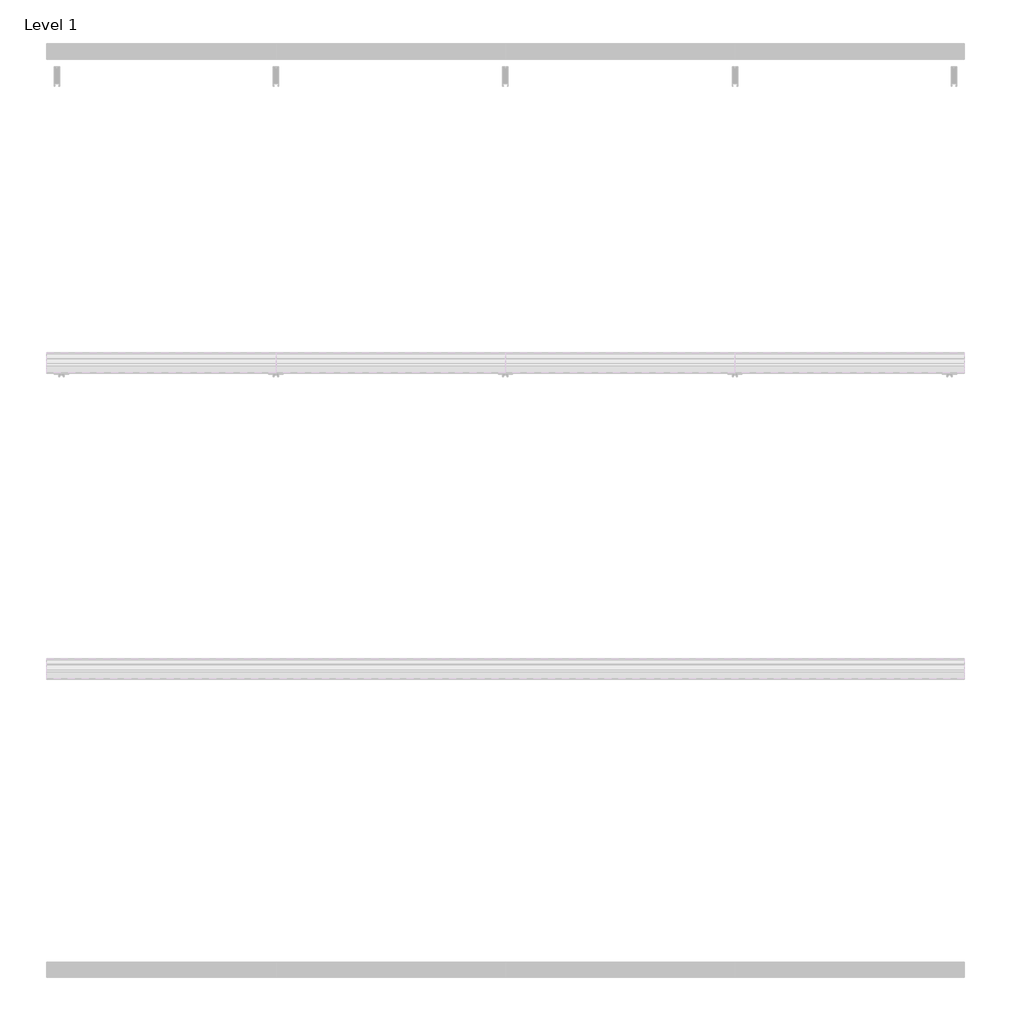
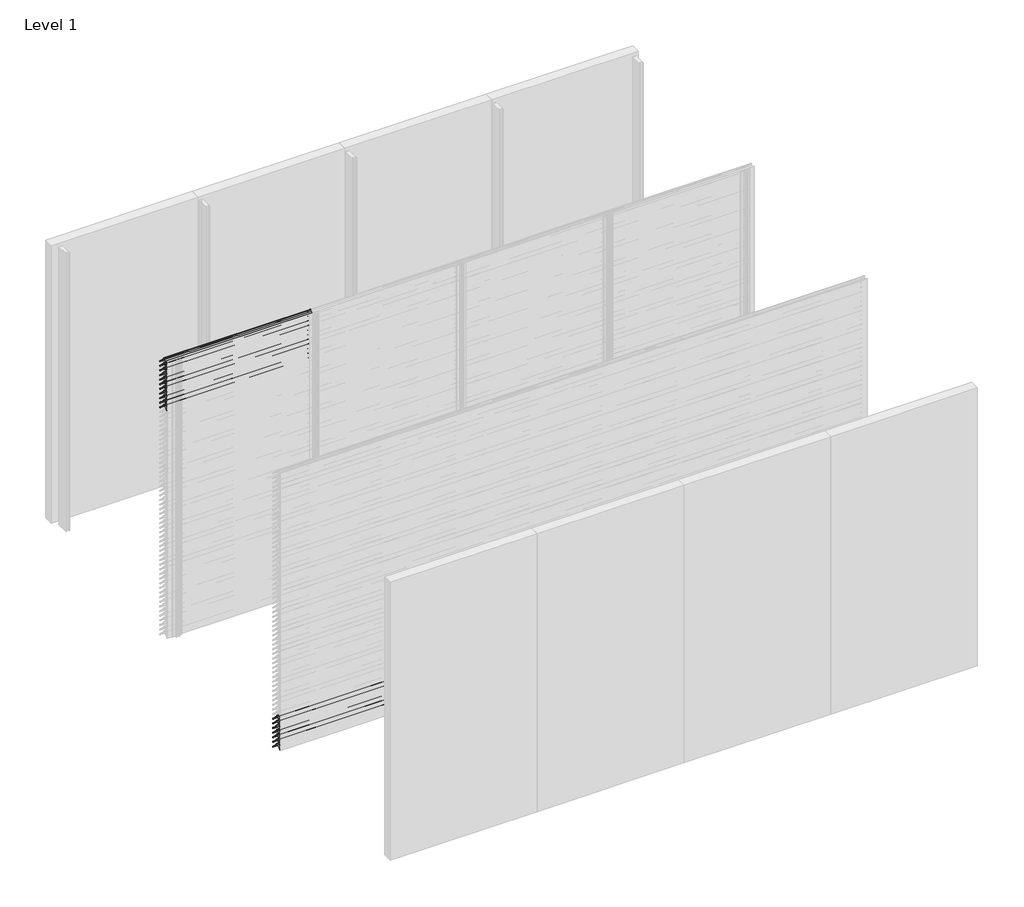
# One storey, part 6 of 173: 18 proxies.
"""IFC4 building model written with IfcOpenShell, lengths in millimetres."""

from ifc_helpers import new_model, si_unit, point, frame, frame_2d, origin, place, context, project, spatial, polyline, circle_curve, trimmed, segment, composite_curve, outline, extrude, element, save

model = new_model("IFC4")

# Units and contexts
model_context = context("Model", 3, world=origin())
ifc_project = project(units=[si_unit("LENGTHUNIT", "METRE", prefix="MILLI")], contexts=[model_context])

# Site, building, storey
site = spatial("IfcSite", under=ifc_project)
building = spatial("IfcBuilding", under=site)
storey = spatial("IfcBuildingStorey", under=building, Name="Level 1", Elevation=0.0)

# Proxies
placement = place(None, origin())
element("IfcBuildingElementProxy", 1, Name="Wall Sweeps", at=placement, inside=storey, context=model_context, shape_type="SweptSolid", body=[
    extrude(outline(composite_curve([segment(polyline([(-53998.0, 2959.1474905), (-53998.0, 2961.6227417)]), True, "CONTINUOUS"), segment(trimmed(circle_curve(frame_2d((-53951.2682172, 2916.2200208)), 65.1557103), [point((-53998.0, 2961.6227417))], [point((-53954.4014323, 2981.3003524))], False, "CARTESIAN"), True, "CONTINUOUS"), segment(polyline([(-53954.4014323, 2981.3003524), (-53934.8315836, 2981.3003524)]), True, "CONTINUOUS"), segment(trimmed(circle_curve(frame_2d((-53732.7329489, 3128.5533172)), 250.0545817), [point((-53934.8315836, 2981.3003524))], [point((-53941.4452143, 2990.8344583))], False, "CARTESIAN"), True, "CONTINUOUS"), segment(trimmed(circle_curve(frame_2d((-53953.2981792, 2985.1737835)), 13.1352966), [point((-53941.4452143, 2990.8344583))], [point((-53953.8171475, 2998.298824))], True, "CARTESIAN"), True, "CONTINUOUS"), segment(polyline([(-53953.8171475, 2998.298824), (-53953.8171475, 3000.0)]), True, "CONTINUOUS"), segment(trimmed(circle_curve(frame_2d((-53953.2981792, 2985.1737835)), 14.8352966), [point((-53953.8171475, 3000.0))], [point((-53939.9637661, 2991.6760487))], False, "CARTESIAN"), True, "CONTINUOUS"), segment(trimmed(circle_curve(frame_2d((-53732.7329489, 3128.5533172)), 248.3545817), [point((-53939.9637661, 2991.6760487))], [point((-53873.8787895, 2924.2059416))], True, "CARTESIAN"), True, "CONTINUOUS"), segment(trimmed(circle_curve(frame_2d((-53883.8147537, 2911.6649442)), 16.0), [point((-53873.8787895, 2924.2059416))], [point((-53867.8648347, 2910.4))], False, "CARTESIAN"), True, "CONTINUOUS"), segment(polyline([(-53867.8648347, 2910.4), (-53869.6712069, 2910.4)]), True, "CONTINUOUS"), segment(trimmed(circle_curve(frame_2d((-53883.8147537, 2911.6649442)), 14.2), [point((-53869.6712069, 2910.4))], [point((-53874.9518628, 2922.7594998))], True, "CARTESIAN"), True, "CONTINUOUS"), segment(trimmed(circle_curve(frame_2d((-53732.7329489, 3128.5533172)), 250.1545817), [point((-53874.9518628, 2922.7594998))], [point((-53933.7064024, 2979.6003524))], False, "CARTESIAN"), True, "CONTINUOUS"), segment(polyline([(-53933.7064024, 2979.6003524), (-53954.3602632, 2979.6003524)]), True, "CONTINUOUS"), segment(trimmed(circle_curve(frame_2d((-53951.2682172, 2916.2200208)), 63.4557103), [point((-53954.3602632, 2979.6003524))], [point((-53998.0, 2959.1474905))], True, "CARTESIAN"), True, "CONTINUOUS")], self_intersect=False)), frame((0.0, 0.0, 0.0), z_axis=(1.0, 0.0, 0.0), x_axis=(0.0, 1.0, 0.0)), (0.0, 0.0, 1.0), 1500.0),
])
element("IfcBuildingElementProxy", 2, Name="Wall Sweeps", at=placement, inside=storey, context=model_context, shape_type="SweptSolid", body=[
    extrude(outline(composite_curve([segment(polyline([(-53998.0, 2909.1474905), (-53998.0, 2911.6227417)]), True, "CONTINUOUS"), segment(trimmed(circle_curve(frame_2d((-53951.2682172, 2866.2200208)), 65.1557103), [point((-53998.0, 2911.6227417))], [point((-53954.4014323, 2931.3003524))], False, "CARTESIAN"), True, "CONTINUOUS"), segment(polyline([(-53954.4014323, 2931.3003524), (-53934.8315836, 2931.3003524)]), True, "CONTINUOUS"), segment(trimmed(circle_curve(frame_2d((-53732.7329489, 3078.5533172)), 250.0545817), [point((-53934.8315836, 2931.3003524))], [point((-53941.4452143, 2940.8344583))], False, "CARTESIAN"), True, "CONTINUOUS"), segment(trimmed(circle_curve(frame_2d((-53953.2981792, 2935.1737835)), 13.1352966), [point((-53941.4452143, 2940.8344583))], [point((-53953.8171475, 2948.298824))], True, "CARTESIAN"), True, "CONTINUOUS"), segment(polyline([(-53953.8171475, 2948.298824), (-53953.8171475, 2950.0)]), True, "CONTINUOUS"), segment(trimmed(circle_curve(frame_2d((-53953.2981792, 2935.1737835)), 14.8352966), [point((-53953.8171475, 2950.0))], [point((-53939.9637661, 2941.6760487))], False, "CARTESIAN"), True, "CONTINUOUS"), segment(trimmed(circle_curve(frame_2d((-53732.7329489, 3078.5533172)), 248.3545817), [point((-53939.9637661, 2941.6760487))], [point((-53873.8787895, 2874.2059416))], True, "CARTESIAN"), True, "CONTINUOUS"), segment(trimmed(circle_curve(frame_2d((-53883.8147537, 2861.6649442)), 16.0), [point((-53873.8787895, 2874.2059416))], [point((-53867.8648347, 2860.4))], False, "CARTESIAN"), True, "CONTINUOUS"), segment(polyline([(-53867.8648347, 2860.4), (-53869.6712069, 2860.4)]), True, "CONTINUOUS"), segment(trimmed(circle_curve(frame_2d((-53883.8147537, 2861.6649442)), 14.2), [point((-53869.6712069, 2860.4))], [point((-53874.9518628, 2872.7594998))], True, "CARTESIAN"), True, "CONTINUOUS"), segment(trimmed(circle_curve(frame_2d((-53732.7329489, 3078.5533172)), 250.1545817), [point((-53874.9518628, 2872.7594998))], [point((-53933.7064024, 2929.6003524))], False, "CARTESIAN"), True, "CONTINUOUS"), segment(polyline([(-53933.7064024, 2929.6003524), (-53954.3602632, 2929.6003524)]), True, "CONTINUOUS"), segment(trimmed(circle_curve(frame_2d((-53951.2682172, 2866.2200208)), 63.4557103), [point((-53954.3602632, 2929.6003524))], [point((-53998.0, 2909.1474905))], True, "CARTESIAN"), True, "CONTINUOUS")], self_intersect=False)), frame((0.0, 0.0, 0.0), z_axis=(1.0, 0.0, 0.0), x_axis=(0.0, 1.0, 0.0)), (0.0, 0.0, 1.0), 1500.0),
])
element("IfcBuildingElementProxy", 3, Name="Wall Sweeps", at=placement, inside=storey, context=model_context, shape_type="SweptSolid", body=[
    extrude(outline(composite_curve([segment(polyline([(-53998.0, 2859.1474905), (-53998.0, 2861.6227417)]), True, "CONTINUOUS"), segment(trimmed(circle_curve(frame_2d((-53951.2682172, 2816.2200208)), 65.1557103), [point((-53998.0, 2861.6227417))], [point((-53954.4014323, 2881.3003524))], False, "CARTESIAN"), True, "CONTINUOUS"), segment(polyline([(-53954.4014323, 2881.3003524), (-53934.8315836, 2881.3003524)]), True, "CONTINUOUS"), segment(trimmed(circle_curve(frame_2d((-53732.7329489, 3028.5533172)), 250.0545817), [point((-53934.8315836, 2881.3003524))], [point((-53941.4452143, 2890.8344583))], False, "CARTESIAN"), True, "CONTINUOUS"), segment(trimmed(circle_curve(frame_2d((-53953.2981792, 2885.1737835)), 13.1352966), [point((-53941.4452143, 2890.8344583))], [point((-53953.8171475, 2898.298824))], True, "CARTESIAN"), True, "CONTINUOUS"), segment(polyline([(-53953.8171475, 2898.298824), (-53953.8171475, 2900.0)]), True, "CONTINUOUS"), segment(trimmed(circle_curve(frame_2d((-53953.2981792, 2885.1737835)), 14.8352966), [point((-53953.8171475, 2900.0))], [point((-53939.9637661, 2891.6760487))], False, "CARTESIAN"), True, "CONTINUOUS"), segment(trimmed(circle_curve(frame_2d((-53732.7329489, 3028.5533172)), 248.3545817), [point((-53939.9637661, 2891.6760487))], [point((-53873.8787895, 2824.2059416))], True, "CARTESIAN"), True, "CONTINUOUS"), segment(trimmed(circle_curve(frame_2d((-53883.8147537, 2811.6649442)), 16.0), [point((-53873.8787895, 2824.2059416))], [point((-53867.8648347, 2810.4))], False, "CARTESIAN"), True, "CONTINUOUS"), segment(polyline([(-53867.8648347, 2810.4), (-53869.6712069, 2810.4)]), True, "CONTINUOUS"), segment(trimmed(circle_curve(frame_2d((-53883.8147537, 2811.6649442)), 14.2), [point((-53869.6712069, 2810.4))], [point((-53874.9518628, 2822.7594998))], True, "CARTESIAN"), True, "CONTINUOUS"), segment(trimmed(circle_curve(frame_2d((-53732.7329489, 3028.5533172)), 250.1545817), [point((-53874.9518628, 2822.7594998))], [point((-53933.7064024, 2879.6003524))], False, "CARTESIAN"), True, "CONTINUOUS"), segment(polyline([(-53933.7064024, 2879.6003524), (-53954.3602632, 2879.6003524)]), True, "CONTINUOUS"), segment(trimmed(circle_curve(frame_2d((-53951.2682172, 2816.2200208)), 63.4557103), [point((-53954.3602632, 2879.6003524))], [point((-53998.0, 2859.1474905))], True, "CARTESIAN"), True, "CONTINUOUS")], self_intersect=False)), frame((0.0, 0.0, 0.0), z_axis=(1.0, 0.0, 0.0), x_axis=(0.0, 1.0, 0.0)), (0.0, 0.0, 1.0), 1500.0),
])
element("IfcBuildingElementProxy", 4, Name="Wall Sweeps", at=placement, inside=storey, context=model_context, shape_type="SweptSolid", body=[
    extrude(outline(composite_curve([segment(polyline([(-53998.0, 2809.1474905), (-53998.0, 2811.6227417)]), True, "CONTINUOUS"), segment(trimmed(circle_curve(frame_2d((-53951.2682172, 2766.2200208)), 65.1557103), [point((-53998.0, 2811.6227417))], [point((-53954.4014323, 2831.3003524))], False, "CARTESIAN"), True, "CONTINUOUS"), segment(polyline([(-53954.4014323, 2831.3003524), (-53934.8315836, 2831.3003524)]), True, "CONTINUOUS"), segment(trimmed(circle_curve(frame_2d((-53732.7329489, 2978.5533172)), 250.0545817), [point((-53934.8315836, 2831.3003524))], [point((-53941.4452143, 2840.8344583))], False, "CARTESIAN"), True, "CONTINUOUS"), segment(trimmed(circle_curve(frame_2d((-53953.2981792, 2835.1737835)), 13.1352966), [point((-53941.4452143, 2840.8344583))], [point((-53953.8171475, 2848.298824))], True, "CARTESIAN"), True, "CONTINUOUS"), segment(polyline([(-53953.8171475, 2848.298824), (-53953.8171475, 2850.0)]), True, "CONTINUOUS"), segment(trimmed(circle_curve(frame_2d((-53953.2981792, 2835.1737835)), 14.8352966), [point((-53953.8171475, 2850.0))], [point((-53939.9637661, 2841.6760487))], False, "CARTESIAN"), True, "CONTINUOUS"), segment(trimmed(circle_curve(frame_2d((-53732.7329489, 2978.5533172)), 248.3545817), [point((-53939.9637661, 2841.6760487))], [point((-53873.8787895, 2774.2059416))], True, "CARTESIAN"), True, "CONTINUOUS"), segment(trimmed(circle_curve(frame_2d((-53883.8147537, 2761.6649442)), 16.0), [point((-53873.8787895, 2774.2059416))], [point((-53867.8648347, 2760.4))], False, "CARTESIAN"), True, "CONTINUOUS"), segment(polyline([(-53867.8648347, 2760.4), (-53869.6712069, 2760.4)]), True, "CONTINUOUS"), segment(trimmed(circle_curve(frame_2d((-53883.8147537, 2761.6649442)), 14.2), [point((-53869.6712069, 2760.4))], [point((-53874.9518628, 2772.7594998))], True, "CARTESIAN"), True, "CONTINUOUS"), segment(trimmed(circle_curve(frame_2d((-53732.7329489, 2978.5533172)), 250.1545817), [point((-53874.9518628, 2772.7594998))], [point((-53933.7064024, 2829.6003524))], False, "CARTESIAN"), True, "CONTINUOUS"), segment(polyline([(-53933.7064024, 2829.6003524), (-53954.3602632, 2829.6003524)]), True, "CONTINUOUS"), segment(trimmed(circle_curve(frame_2d((-53951.2682172, 2766.2200208)), 63.4557103), [point((-53954.3602632, 2829.6003524))], [point((-53998.0, 2809.1474905))], True, "CARTESIAN"), True, "CONTINUOUS")], self_intersect=False)), frame((0.0, 0.0, 0.0), z_axis=(1.0, 0.0, 0.0), x_axis=(0.0, 1.0, 0.0)), (0.0, 0.0, 1.0), 1500.0),
])
element("IfcBuildingElementProxy", 5, Name="Wall Sweeps", at=placement, inside=storey, context=model_context, shape_type="SweptSolid", body=[
    extrude(outline(composite_curve([segment(polyline([(-53998.0, 2759.1474905), (-53998.0, 2761.6227417)]), True, "CONTINUOUS"), segment(trimmed(circle_curve(frame_2d((-53951.2682172, 2716.2200208)), 65.1557103), [point((-53998.0, 2761.6227417))], [point((-53954.4014323, 2781.3003524))], False, "CARTESIAN"), True, "CONTINUOUS"), segment(polyline([(-53954.4014323, 2781.3003524), (-53934.8315836, 2781.3003524)]), True, "CONTINUOUS"), segment(trimmed(circle_curve(frame_2d((-53732.7329489, 2928.5533172)), 250.0545817), [point((-53934.8315836, 2781.3003524))], [point((-53941.4452143, 2790.8344583))], False, "CARTESIAN"), True, "CONTINUOUS"), segment(trimmed(circle_curve(frame_2d((-53953.2981792, 2785.1737835)), 13.1352966), [point((-53941.4452143, 2790.8344583))], [point((-53953.8171475, 2798.298824))], True, "CARTESIAN"), True, "CONTINUOUS"), segment(polyline([(-53953.8171475, 2798.298824), (-53953.8171475, 2800.0)]), True, "CONTINUOUS"), segment(trimmed(circle_curve(frame_2d((-53953.2981792, 2785.1737835)), 14.8352966), [point((-53953.8171475, 2800.0))], [point((-53939.9637661, 2791.6760487))], False, "CARTESIAN"), True, "CONTINUOUS"), segment(trimmed(circle_curve(frame_2d((-53732.7329489, 2928.5533172)), 248.3545817), [point((-53939.9637661, 2791.6760487))], [point((-53873.8787895, 2724.2059416))], True, "CARTESIAN"), True, "CONTINUOUS"), segment(trimmed(circle_curve(frame_2d((-53883.8147537, 2711.6649442)), 16.0), [point((-53873.8787895, 2724.2059416))], [point((-53867.8648347, 2710.4))], False, "CARTESIAN"), True, "CONTINUOUS"), segment(polyline([(-53867.8648347, 2710.4), (-53869.6712069, 2710.4)]), True, "CONTINUOUS"), segment(trimmed(circle_curve(frame_2d((-53883.8147537, 2711.6649442)), 14.2), [point((-53869.6712069, 2710.4))], [point((-53874.9518628, 2722.7594998))], True, "CARTESIAN"), True, "CONTINUOUS"), segment(trimmed(circle_curve(frame_2d((-53732.7329489, 2928.5533172)), 250.1545817), [point((-53874.9518628, 2722.7594998))], [point((-53933.7064024, 2779.6003524))], False, "CARTESIAN"), True, "CONTINUOUS"), segment(polyline([(-53933.7064024, 2779.6003524), (-53954.3602632, 2779.6003524)]), True, "CONTINUOUS"), segment(trimmed(circle_curve(frame_2d((-53951.2682172, 2716.2200208)), 63.4557103), [point((-53954.3602632, 2779.6003524))], [point((-53998.0, 2759.1474905))], True, "CARTESIAN"), True, "CONTINUOUS")], self_intersect=False)), frame((0.0, 0.0, 0.0), z_axis=(1.0, 0.0, 0.0), x_axis=(0.0, 1.0, 0.0)), (0.0, 0.0, 1.0), 1500.0),
])
element("IfcBuildingElementProxy", 6, Name="Wall Sweeps", at=placement, inside=storey, context=model_context, shape_type="SweptSolid", body=[
    extrude(outline(composite_curve([segment(polyline([(-53998.0, 2709.1474905), (-53998.0, 2711.6227417)]), True, "CONTINUOUS"), segment(trimmed(circle_curve(frame_2d((-53951.2682172, 2666.2200208)), 65.1557103), [point((-53998.0, 2711.6227417))], [point((-53954.4014323, 2731.3003524))], False, "CARTESIAN"), True, "CONTINUOUS"), segment(polyline([(-53954.4014323, 2731.3003524), (-53934.8315836, 2731.3003524)]), True, "CONTINUOUS"), segment(trimmed(circle_curve(frame_2d((-53732.7329489, 2878.5533172)), 250.0545817), [point((-53934.8315836, 2731.3003524))], [point((-53941.4452143, 2740.8344583))], False, "CARTESIAN"), True, "CONTINUOUS"), segment(trimmed(circle_curve(frame_2d((-53953.2981792, 2735.1737835)), 13.1352966), [point((-53941.4452143, 2740.8344583))], [point((-53953.8171475, 2748.298824))], True, "CARTESIAN"), True, "CONTINUOUS"), segment(polyline([(-53953.8171475, 2748.298824), (-53953.8171475, 2750.0)]), True, "CONTINUOUS"), segment(trimmed(circle_curve(frame_2d((-53953.2981792, 2735.1737835)), 14.8352966), [point((-53953.8171475, 2750.0))], [point((-53939.9637661, 2741.6760487))], False, "CARTESIAN"), True, "CONTINUOUS"), segment(trimmed(circle_curve(frame_2d((-53732.7329489, 2878.5533172)), 248.3545817), [point((-53939.9637661, 2741.6760487))], [point((-53873.8787895, 2674.2059416))], True, "CARTESIAN"), True, "CONTINUOUS"), segment(trimmed(circle_curve(frame_2d((-53883.8147537, 2661.6649442)), 16.0), [point((-53873.8787895, 2674.2059416))], [point((-53867.8648347, 2660.4))], False, "CARTESIAN"), True, "CONTINUOUS"), segment(polyline([(-53867.8648347, 2660.4), (-53869.6712069, 2660.4)]), True, "CONTINUOUS"), segment(trimmed(circle_curve(frame_2d((-53883.8147537, 2661.6649442)), 14.2), [point((-53869.6712069, 2660.4))], [point((-53874.9518628, 2672.7594998))], True, "CARTESIAN"), True, "CONTINUOUS"), segment(trimmed(circle_curve(frame_2d((-53732.7329489, 2878.5533172)), 250.1545817), [point((-53874.9518628, 2672.7594998))], [point((-53933.7064024, 2729.6003524))], False, "CARTESIAN"), True, "CONTINUOUS"), segment(polyline([(-53933.7064024, 2729.6003524), (-53954.3602632, 2729.6003524)]), True, "CONTINUOUS"), segment(trimmed(circle_curve(frame_2d((-53951.2682172, 2666.2200208)), 63.4557103), [point((-53954.3602632, 2729.6003524))], [point((-53998.0, 2709.1474905))], True, "CARTESIAN"), True, "CONTINUOUS")], self_intersect=False)), frame((0.0, 0.0, 0.0), z_axis=(1.0, 0.0, 0.0), x_axis=(0.0, 1.0, 0.0)), (0.0, 0.0, 1.0), 1500.0),
])
element("IfcBuildingElementProxy", 7, Name="Wall Sweeps", at=placement, inside=storey, context=model_context, shape_type="SweptSolid", body=[
    extrude(outline(composite_curve([segment(polyline([(-53998.0, 2659.1474905), (-53998.0, 2661.6227417)]), True, "CONTINUOUS"), segment(trimmed(circle_curve(frame_2d((-53951.2682172, 2616.2200208)), 65.1557103), [point((-53998.0, 2661.6227417))], [point((-53954.4014323, 2681.3003524))], False, "CARTESIAN"), True, "CONTINUOUS"), segment(polyline([(-53954.4014323, 2681.3003524), (-53934.8315836, 2681.3003524)]), True, "CONTINUOUS"), segment(trimmed(circle_curve(frame_2d((-53732.7329489, 2828.5533172)), 250.0545817), [point((-53934.8315836, 2681.3003524))], [point((-53941.4452143, 2690.8344583))], False, "CARTESIAN"), True, "CONTINUOUS"), segment(trimmed(circle_curve(frame_2d((-53953.2981792, 2685.1737835)), 13.1352966), [point((-53941.4452143, 2690.8344583))], [point((-53953.8171475, 2698.298824))], True, "CARTESIAN"), True, "CONTINUOUS"), segment(polyline([(-53953.8171475, 2698.298824), (-53953.8171475, 2700.0)]), True, "CONTINUOUS"), segment(trimmed(circle_curve(frame_2d((-53953.2981792, 2685.1737835)), 14.8352966), [point((-53953.8171475, 2700.0))], [point((-53939.9637661, 2691.6760487))], False, "CARTESIAN"), True, "CONTINUOUS"), segment(trimmed(circle_curve(frame_2d((-53732.7329489, 2828.5533172)), 248.3545817), [point((-53939.9637661, 2691.6760487))], [point((-53873.8787895, 2624.2059416))], True, "CARTESIAN"), True, "CONTINUOUS"), segment(trimmed(circle_curve(frame_2d((-53883.8147537, 2611.6649442)), 16.0), [point((-53873.8787895, 2624.2059416))], [point((-53867.8648347, 2610.4))], False, "CARTESIAN"), True, "CONTINUOUS"), segment(polyline([(-53867.8648347, 2610.4), (-53869.6712069, 2610.4)]), True, "CONTINUOUS"), segment(trimmed(circle_curve(frame_2d((-53883.8147537, 2611.6649442)), 14.2), [point((-53869.6712069, 2610.4))], [point((-53874.9518628, 2622.7594998))], True, "CARTESIAN"), True, "CONTINUOUS"), segment(trimmed(circle_curve(frame_2d((-53732.7329489, 2828.5533172)), 250.1545817), [point((-53874.9518628, 2622.7594998))], [point((-53933.7064024, 2679.6003524))], False, "CARTESIAN"), True, "CONTINUOUS"), segment(polyline([(-53933.7064024, 2679.6003524), (-53954.3602632, 2679.6003524)]), True, "CONTINUOUS"), segment(trimmed(circle_curve(frame_2d((-53951.2682172, 2616.2200208)), 63.4557103), [point((-53954.3602632, 2679.6003524))], [point((-53998.0, 2659.1474905))], True, "CARTESIAN"), True, "CONTINUOUS")], self_intersect=False)), frame((0.0, 0.0, 0.0), z_axis=(1.0, 0.0, 0.0), x_axis=(0.0, 1.0, 0.0)), (0.0, 0.0, 1.0), 1500.0),
])
element("IfcBuildingElementProxy", 8, Name="Wall Sweeps", at=placement, inside=storey, context=model_context, shape_type="SweptSolid", body=[
    extrude(outline(composite_curve([segment(polyline([(-53998.0, 2609.1474905), (-53998.0, 2611.6227417)]), True, "CONTINUOUS"), segment(trimmed(circle_curve(frame_2d((-53951.2682172, 2566.2200208)), 65.1557103), [point((-53998.0, 2611.6227417))], [point((-53954.4014323, 2631.3003524))], False, "CARTESIAN"), True, "CONTINUOUS"), segment(polyline([(-53954.4014323, 2631.3003524), (-53934.8315836, 2631.3003524)]), True, "CONTINUOUS"), segment(trimmed(circle_curve(frame_2d((-53732.7329489, 2778.5533172)), 250.0545817), [point((-53934.8315836, 2631.3003524))], [point((-53941.4452143, 2640.8344583))], False, "CARTESIAN"), True, "CONTINUOUS"), segment(trimmed(circle_curve(frame_2d((-53953.2981792, 2635.1737835)), 13.1352966), [point((-53941.4452143, 2640.8344583))], [point((-53953.8171475, 2648.298824))], True, "CARTESIAN"), True, "CONTINUOUS"), segment(polyline([(-53953.8171475, 2648.298824), (-53953.8171475, 2650.0)]), True, "CONTINUOUS"), segment(trimmed(circle_curve(frame_2d((-53953.2981792, 2635.1737835)), 14.8352966), [point((-53953.8171475, 2650.0))], [point((-53939.9637661, 2641.6760487))], False, "CARTESIAN"), True, "CONTINUOUS"), segment(trimmed(circle_curve(frame_2d((-53732.7329489, 2778.5533172)), 248.3545817), [point((-53939.9637661, 2641.6760487))], [point((-53873.8787895, 2574.2059416))], True, "CARTESIAN"), True, "CONTINUOUS"), segment(trimmed(circle_curve(frame_2d((-53883.8147537, 2561.6649442)), 16.0), [point((-53873.8787895, 2574.2059416))], [point((-53867.8648347, 2560.4))], False, "CARTESIAN"), True, "CONTINUOUS"), segment(polyline([(-53867.8648347, 2560.4), (-53869.6712069, 2560.4)]), True, "CONTINUOUS"), segment(trimmed(circle_curve(frame_2d((-53883.8147537, 2561.6649442)), 14.2), [point((-53869.6712069, 2560.4))], [point((-53874.9518628, 2572.7594998))], True, "CARTESIAN"), True, "CONTINUOUS"), segment(trimmed(circle_curve(frame_2d((-53732.7329489, 2778.5533172)), 250.1545817), [point((-53874.9518628, 2572.7594998))], [point((-53933.7064024, 2629.6003524))], False, "CARTESIAN"), True, "CONTINUOUS"), segment(polyline([(-53933.7064024, 2629.6003524), (-53954.3602632, 2629.6003524)]), True, "CONTINUOUS"), segment(trimmed(circle_curve(frame_2d((-53951.2682172, 2566.2200208)), 63.4557103), [point((-53954.3602632, 2629.6003524))], [point((-53998.0, 2609.1474905))], True, "CARTESIAN"), True, "CONTINUOUS")], self_intersect=False)), frame((0.0, 0.0, 0.0), z_axis=(1.0, 0.0, 0.0), x_axis=(0.0, 1.0, 0.0)), (0.0, 0.0, 1.0), 1500.0),
])
element("IfcBuildingElementProxy", 9, Name="Wall Sweeps", at=placement, inside=storey, context=model_context, shape_type="SweptSolid", body=[
    extrude(outline(composite_curve([segment(polyline([(-53998.0, 2559.1474905), (-53998.0, 2561.6227417)]), True, "CONTINUOUS"), segment(trimmed(circle_curve(frame_2d((-53951.2682172, 2516.2200208)), 65.1557103), [point((-53998.0, 2561.6227417))], [point((-53954.4014323, 2581.3003524))], False, "CARTESIAN"), True, "CONTINUOUS"), segment(polyline([(-53954.4014323, 2581.3003524), (-53934.8315836, 2581.3003524)]), True, "CONTINUOUS"), segment(trimmed(circle_curve(frame_2d((-53732.7329489, 2728.5533172)), 250.0545817), [point((-53934.8315836, 2581.3003524))], [point((-53941.4452143, 2590.8344583))], False, "CARTESIAN"), True, "CONTINUOUS"), segment(trimmed(circle_curve(frame_2d((-53953.2981792, 2585.1737835)), 13.1352966), [point((-53941.4452143, 2590.8344583))], [point((-53953.8171475, 2598.298824))], True, "CARTESIAN"), True, "CONTINUOUS"), segment(polyline([(-53953.8171475, 2598.298824), (-53953.8171475, 2600.0)]), True, "CONTINUOUS"), segment(trimmed(circle_curve(frame_2d((-53953.2981792, 2585.1737835)), 14.8352966), [point((-53953.8171475, 2600.0))], [point((-53939.9637661, 2591.6760487))], False, "CARTESIAN"), True, "CONTINUOUS"), segment(trimmed(circle_curve(frame_2d((-53732.7329489, 2728.5533172)), 248.3545817), [point((-53939.9637661, 2591.6760487))], [point((-53873.8787895, 2524.2059416))], True, "CARTESIAN"), True, "CONTINUOUS"), segment(trimmed(circle_curve(frame_2d((-53883.8147537, 2511.6649442)), 16.0), [point((-53873.8787895, 2524.2059416))], [point((-53867.8648347, 2510.4))], False, "CARTESIAN"), True, "CONTINUOUS"), segment(polyline([(-53867.8648347, 2510.4), (-53869.6712069, 2510.4)]), True, "CONTINUOUS"), segment(trimmed(circle_curve(frame_2d((-53883.8147537, 2511.6649442)), 14.2), [point((-53869.6712069, 2510.4))], [point((-53874.9518628, 2522.7594998))], True, "CARTESIAN"), True, "CONTINUOUS"), segment(trimmed(circle_curve(frame_2d((-53732.7329489, 2728.5533172)), 250.1545817), [point((-53874.9518628, 2522.7594998))], [point((-53933.7064024, 2579.6003524))], False, "CARTESIAN"), True, "CONTINUOUS"), segment(polyline([(-53933.7064024, 2579.6003524), (-53954.3602632, 2579.6003524)]), True, "CONTINUOUS"), segment(trimmed(circle_curve(frame_2d((-53951.2682172, 2516.2200208)), 63.4557103), [point((-53954.3602632, 2579.6003524))], [point((-53998.0, 2559.1474905))], True, "CARTESIAN"), True, "CONTINUOUS")], self_intersect=False)), frame((0.0, 0.0, 0.0), z_axis=(1.0, 0.0, 0.0), x_axis=(0.0, 1.0, 0.0)), (0.0, 0.0, 1.0), 1500.0),
])
element("IfcBuildingElementProxy", 10, Name="Wall Sweeps", at=placement, inside=storey, context=model_context, shape_type="SweptSolid", body=[
    extrude(outline(composite_curve([segment(polyline([(-53998.0, 2509.1474905), (-53998.0, 2511.6227417)]), True, "CONTINUOUS"), segment(trimmed(circle_curve(frame_2d((-53951.2682172, 2466.2200208)), 65.1557103), [point((-53998.0, 2511.6227417))], [point((-53954.4014323, 2531.3003524))], False, "CARTESIAN"), True, "CONTINUOUS"), segment(polyline([(-53954.4014323, 2531.3003524), (-53934.8315836, 2531.3003524)]), True, "CONTINUOUS"), segment(trimmed(circle_curve(frame_2d((-53732.7329489, 2678.5533172)), 250.0545817), [point((-53934.8315836, 2531.3003524))], [point((-53941.4452143, 2540.8344583))], False, "CARTESIAN"), True, "CONTINUOUS"), segment(trimmed(circle_curve(frame_2d((-53953.2981792, 2535.1737835)), 13.1352966), [point((-53941.4452143, 2540.8344583))], [point((-53953.8171475, 2548.298824))], True, "CARTESIAN"), True, "CONTINUOUS"), segment(polyline([(-53953.8171475, 2548.298824), (-53953.8171475, 2550.0)]), True, "CONTINUOUS"), segment(trimmed(circle_curve(frame_2d((-53953.2981792, 2535.1737835)), 14.8352966), [point((-53953.8171475, 2550.0))], [point((-53939.9637661, 2541.6760487))], False, "CARTESIAN"), True, "CONTINUOUS"), segment(trimmed(circle_curve(frame_2d((-53732.7329489, 2678.5533172)), 248.3545817), [point((-53939.9637661, 2541.6760487))], [point((-53873.8787895, 2474.2059416))], True, "CARTESIAN"), True, "CONTINUOUS"), segment(trimmed(circle_curve(frame_2d((-53883.8147537, 2461.6649442)), 16.0), [point((-53873.8787895, 2474.2059416))], [point((-53867.8648347, 2460.4))], False, "CARTESIAN"), True, "CONTINUOUS"), segment(polyline([(-53867.8648347, 2460.4), (-53869.6712069, 2460.4)]), True, "CONTINUOUS"), segment(trimmed(circle_curve(frame_2d((-53883.8147537, 2461.6649442)), 14.2), [point((-53869.6712069, 2460.4))], [point((-53874.9518628, 2472.7594998))], True, "CARTESIAN"), True, "CONTINUOUS"), segment(trimmed(circle_curve(frame_2d((-53732.7329489, 2678.5533172)), 250.1545817), [point((-53874.9518628, 2472.7594998))], [point((-53933.7064024, 2529.6003524))], False, "CARTESIAN"), True, "CONTINUOUS"), segment(polyline([(-53933.7064024, 2529.6003524), (-53954.3602632, 2529.6003524)]), True, "CONTINUOUS"), segment(trimmed(circle_curve(frame_2d((-53951.2682172, 2466.2200208)), 63.4557103), [point((-53954.3602632, 2529.6003524))], [point((-53998.0, 2509.1474905))], True, "CARTESIAN"), True, "CONTINUOUS")], self_intersect=False)), frame((0.0, 0.0, 0.0), z_axis=(1.0, 0.0, 0.0), x_axis=(0.0, 1.0, 0.0)), (0.0, 0.0, 1.0), 1500.0),
])
element("IfcBuildingElementProxy", 11, Name="Wall Sweeps", at=placement, inside=storey, context=model_context, shape_type="SweptSolid", body=[
    extrude(outline(composite_curve([segment(polyline([(-53998.0, 2459.1474905), (-53998.0, 2461.6227417)]), True, "CONTINUOUS"), segment(trimmed(circle_curve(frame_2d((-53951.2682172, 2416.2200208)), 65.1557103), [point((-53998.0, 2461.6227417))], [point((-53954.4014323, 2481.3003524))], False, "CARTESIAN"), True, "CONTINUOUS"), segment(polyline([(-53954.4014323, 2481.3003524), (-53934.8315836, 2481.3003524)]), True, "CONTINUOUS"), segment(trimmed(circle_curve(frame_2d((-53732.7329489, 2628.5533172)), 250.0545817), [point((-53934.8315836, 2481.3003524))], [point((-53941.4452143, 2490.8344583))], False, "CARTESIAN"), True, "CONTINUOUS"), segment(trimmed(circle_curve(frame_2d((-53953.2981792, 2485.1737835)), 13.1352966), [point((-53941.4452143, 2490.8344583))], [point((-53953.8171475, 2498.298824))], True, "CARTESIAN"), True, "CONTINUOUS"), segment(polyline([(-53953.8171475, 2498.298824), (-53953.8171475, 2500.0)]), True, "CONTINUOUS"), segment(trimmed(circle_curve(frame_2d((-53953.2981792, 2485.1737835)), 14.8352966), [point((-53953.8171475, 2500.0))], [point((-53939.9637661, 2491.6760487))], False, "CARTESIAN"), True, "CONTINUOUS"), segment(trimmed(circle_curve(frame_2d((-53732.7329489, 2628.5533172)), 248.3545817), [point((-53939.9637661, 2491.6760487))], [point((-53873.8787895, 2424.2059416))], True, "CARTESIAN"), True, "CONTINUOUS"), segment(trimmed(circle_curve(frame_2d((-53883.8147537, 2411.6649442)), 16.0), [point((-53873.8787895, 2424.2059416))], [point((-53867.8648347, 2410.4))], False, "CARTESIAN"), True, "CONTINUOUS"), segment(polyline([(-53867.8648347, 2410.4), (-53869.6712069, 2410.4)]), True, "CONTINUOUS"), segment(trimmed(circle_curve(frame_2d((-53883.8147537, 2411.6649442)), 14.2), [point((-53869.6712069, 2410.4))], [point((-53874.9518628, 2422.7594998))], True, "CARTESIAN"), True, "CONTINUOUS"), segment(trimmed(circle_curve(frame_2d((-53732.7329489, 2628.5533172)), 250.1545817), [point((-53874.9518628, 2422.7594998))], [point((-53933.7064024, 2479.6003524))], False, "CARTESIAN"), True, "CONTINUOUS"), segment(polyline([(-53933.7064024, 2479.6003524), (-53954.3602632, 2479.6003524)]), True, "CONTINUOUS"), segment(trimmed(circle_curve(frame_2d((-53951.2682172, 2416.2200208)), 63.4557103), [point((-53954.3602632, 2479.6003524))], [point((-53998.0, 2459.1474905))], True, "CARTESIAN"), True, "CONTINUOUS")], self_intersect=False)), frame((0.0, 0.0, 0.0), z_axis=(1.0, 0.0, 0.0), x_axis=(0.0, 1.0, 0.0)), (0.0, 0.0, 1.0), 1500.0),
])
element("IfcBuildingElementProxy", 12, Name="Wall Sweeps", at=placement, inside=storey, context=model_context, shape_type="SweptSolid", body=[
    extrude(outline(composite_curve([segment(polyline([(-55998.0, 309.1474905), (-55998.0, 311.6227417)]), True, "CONTINUOUS"), segment(trimmed(circle_curve(frame_2d((-55951.2682172, 266.2200208)), 65.1557103), [point((-55998.0, 311.6227417))], [point((-55954.4014323, 331.3003524))], False, "CARTESIAN"), True, "CONTINUOUS"), segment(polyline([(-55954.4014323, 331.3003524), (-55934.8315836, 331.3003524)]), True, "CONTINUOUS"), segment(trimmed(circle_curve(frame_2d((-55732.7329489, 478.5533172)), 250.0545817), [point((-55934.8315836, 331.3003524))], [point((-55941.4452143, 340.8344583))], False, "CARTESIAN"), True, "CONTINUOUS"), segment(trimmed(circle_curve(frame_2d((-55953.2981792, 335.1737835)), 13.1352966), [point((-55941.4452143, 340.8344583))], [point((-55953.8171475, 348.298824))], True, "CARTESIAN"), True, "CONTINUOUS"), segment(polyline([(-55953.8171475, 348.298824), (-55953.8171475, 350.0)]), True, "CONTINUOUS"), segment(trimmed(circle_curve(frame_2d((-55953.2981792, 335.1737835)), 14.8352966), [point((-55953.8171475, 350.0))], [point((-55939.9637661, 341.6760487))], False, "CARTESIAN"), True, "CONTINUOUS"), segment(trimmed(circle_curve(frame_2d((-55732.7329489, 478.5533172)), 248.3545817), [point((-55939.9637661, 341.6760487))], [point((-55873.8787895, 274.2059416))], True, "CARTESIAN"), True, "CONTINUOUS"), segment(trimmed(circle_curve(frame_2d((-55883.8147537, 261.6649442)), 16.0), [point((-55873.8787895, 274.2059416))], [point((-55867.8648347, 260.4))], False, "CARTESIAN"), True, "CONTINUOUS"), segment(polyline([(-55867.8648347, 260.4), (-55869.6712069, 260.4)]), True, "CONTINUOUS"), segment(trimmed(circle_curve(frame_2d((-55883.8147537, 261.6649442)), 14.2), [point((-55869.6712069, 260.4))], [point((-55874.9518628, 272.7594998))], True, "CARTESIAN"), True, "CONTINUOUS"), segment(trimmed(circle_curve(frame_2d((-55732.7329489, 478.5533172)), 250.1545817), [point((-55874.9518628, 272.7594998))], [point((-55933.7064024, 329.6003524))], False, "CARTESIAN"), True, "CONTINUOUS"), segment(polyline([(-55933.7064024, 329.6003524), (-55954.3602632, 329.6003524)]), True, "CONTINUOUS"), segment(trimmed(circle_curve(frame_2d((-55951.2682172, 266.2200208)), 63.4557103), [point((-55954.3602632, 329.6003524))], [point((-55998.0, 309.1474905))], True, "CARTESIAN"), True, "CONTINUOUS")], self_intersect=False)), frame((0.0, 0.0, 0.0), z_axis=(1.0, 0.0, 0.0), x_axis=(0.0, 1.0, 0.0)), (0.0, 0.0, 1.0), 6000.0),
])
element("IfcBuildingElementProxy", 13, Name="Wall Sweeps", at=placement, inside=storey, context=model_context, shape_type="SweptSolid", body=[
    extrude(outline(composite_curve([segment(polyline([(-55998.0, 259.1474905), (-55998.0, 261.6227417)]), True, "CONTINUOUS"), segment(trimmed(circle_curve(frame_2d((-55951.2682172, 216.2200208)), 65.1557103), [point((-55998.0, 261.6227417))], [point((-55954.4014323, 281.3003524))], False, "CARTESIAN"), True, "CONTINUOUS"), segment(polyline([(-55954.4014323, 281.3003524), (-55934.8315836, 281.3003524)]), True, "CONTINUOUS"), segment(trimmed(circle_curve(frame_2d((-55732.7329489, 428.5533172)), 250.0545817), [point((-55934.8315836, 281.3003524))], [point((-55941.4452143, 290.8344583))], False, "CARTESIAN"), True, "CONTINUOUS"), segment(trimmed(circle_curve(frame_2d((-55953.2981792, 285.1737835)), 13.1352966), [point((-55941.4452143, 290.8344583))], [point((-55953.8171475, 298.298824))], True, "CARTESIAN"), True, "CONTINUOUS"), segment(polyline([(-55953.8171475, 298.298824), (-55953.8171475, 300.0)]), True, "CONTINUOUS"), segment(trimmed(circle_curve(frame_2d((-55953.2981792, 285.1737835)), 14.8352966), [point((-55953.8171475, 300.0))], [point((-55939.9637661, 291.6760487))], False, "CARTESIAN"), True, "CONTINUOUS"), segment(trimmed(circle_curve(frame_2d((-55732.7329489, 428.5533172)), 248.3545817), [point((-55939.9637661, 291.6760487))], [point((-55873.8787895, 224.2059416))], True, "CARTESIAN"), True, "CONTINUOUS"), segment(trimmed(circle_curve(frame_2d((-55883.8147537, 211.6649442)), 16.0), [point((-55873.8787895, 224.2059416))], [point((-55867.8648347, 210.4))], False, "CARTESIAN"), True, "CONTINUOUS"), segment(polyline([(-55867.8648347, 210.4), (-55869.6712069, 210.4)]), True, "CONTINUOUS"), segment(trimmed(circle_curve(frame_2d((-55883.8147537, 211.6649442)), 14.2), [point((-55869.6712069, 210.4))], [point((-55874.9518628, 222.7594998))], True, "CARTESIAN"), True, "CONTINUOUS"), segment(trimmed(circle_curve(frame_2d((-55732.7329489, 428.5533172)), 250.1545817), [point((-55874.9518628, 222.7594998))], [point((-55933.7064024, 279.6003524))], False, "CARTESIAN"), True, "CONTINUOUS"), segment(polyline([(-55933.7064024, 279.6003524), (-55954.3602632, 279.6003524)]), True, "CONTINUOUS"), segment(trimmed(circle_curve(frame_2d((-55951.2682172, 216.2200208)), 63.4557103), [point((-55954.3602632, 279.6003524))], [point((-55998.0, 259.1474905))], True, "CARTESIAN"), True, "CONTINUOUS")], self_intersect=False)), frame((0.0, 0.0, 0.0), z_axis=(1.0, 0.0, 0.0), x_axis=(0.0, 1.0, 0.0)), (0.0, 0.0, 1.0), 6000.0),
])
element("IfcBuildingElementProxy", 14, Name="Wall Sweeps", at=placement, inside=storey, context=model_context, shape_type="SweptSolid", body=[
    extrude(outline(composite_curve([segment(polyline([(-55998.0, 209.1474905), (-55998.0, 211.6227417)]), True, "CONTINUOUS"), segment(trimmed(circle_curve(frame_2d((-55951.2682172, 166.2200208)), 65.1557103), [point((-55998.0, 211.6227417))], [point((-55954.4014323, 231.3003524))], False, "CARTESIAN"), True, "CONTINUOUS"), segment(polyline([(-55954.4014323, 231.3003524), (-55934.8315836, 231.3003524)]), True, "CONTINUOUS"), segment(trimmed(circle_curve(frame_2d((-55732.7329489, 378.5533172)), 250.0545817), [point((-55934.8315836, 231.3003524))], [point((-55941.4452143, 240.8344583))], False, "CARTESIAN"), True, "CONTINUOUS"), segment(trimmed(circle_curve(frame_2d((-55953.2981792, 235.1737835)), 13.1352966), [point((-55941.4452143, 240.8344583))], [point((-55953.8171475, 248.298824))], True, "CARTESIAN"), True, "CONTINUOUS"), segment(polyline([(-55953.8171475, 248.298824), (-55953.8171475, 250.0)]), True, "CONTINUOUS"), segment(trimmed(circle_curve(frame_2d((-55953.2981792, 235.1737835)), 14.8352966), [point((-55953.8171475, 250.0))], [point((-55939.9637661, 241.6760487))], False, "CARTESIAN"), True, "CONTINUOUS"), segment(trimmed(circle_curve(frame_2d((-55732.7329489, 378.5533172)), 248.3545817), [point((-55939.9637661, 241.6760487))], [point((-55873.8787895, 174.2059416))], True, "CARTESIAN"), True, "CONTINUOUS"), segment(trimmed(circle_curve(frame_2d((-55883.8147537, 161.6649442)), 16.0), [point((-55873.8787895, 174.2059416))], [point((-55867.8648347, 160.4))], False, "CARTESIAN"), True, "CONTINUOUS"), segment(polyline([(-55867.8648347, 160.4), (-55869.6712069, 160.4)]), True, "CONTINUOUS"), segment(trimmed(circle_curve(frame_2d((-55883.8147537, 161.6649442)), 14.2), [point((-55869.6712069, 160.4))], [point((-55874.9518628, 172.7594998))], True, "CARTESIAN"), True, "CONTINUOUS"), segment(trimmed(circle_curve(frame_2d((-55732.7329489, 378.5533172)), 250.1545817), [point((-55874.9518628, 172.7594998))], [point((-55933.7064024, 229.6003524))], False, "CARTESIAN"), True, "CONTINUOUS"), segment(polyline([(-55933.7064024, 229.6003524), (-55954.3602632, 229.6003524)]), True, "CONTINUOUS"), segment(trimmed(circle_curve(frame_2d((-55951.2682172, 166.2200208)), 63.4557103), [point((-55954.3602632, 229.6003524))], [point((-55998.0, 209.1474905))], True, "CARTESIAN"), True, "CONTINUOUS")], self_intersect=False)), frame((0.0, 0.0, 0.0), z_axis=(1.0, 0.0, 0.0), x_axis=(0.0, 1.0, 0.0)), (0.0, 0.0, 1.0), 6000.0),
])
element("IfcBuildingElementProxy", 15, Name="Wall Sweeps", at=placement, inside=storey, context=model_context, shape_type="SweptSolid", body=[
    extrude(outline(composite_curve([segment(polyline([(-55998.0, 159.1474905), (-55998.0, 161.6227417)]), True, "CONTINUOUS"), segment(trimmed(circle_curve(frame_2d((-55951.2682172, 116.2200208)), 65.1557103), [point((-55998.0, 161.6227417))], [point((-55954.4014323, 181.3003524))], False, "CARTESIAN"), True, "CONTINUOUS"), segment(polyline([(-55954.4014323, 181.3003524), (-55934.8315836, 181.3003524)]), True, "CONTINUOUS"), segment(trimmed(circle_curve(frame_2d((-55732.7329489, 328.5533172)), 250.0545817), [point((-55934.8315836, 181.3003524))], [point((-55941.4452143, 190.8344583))], False, "CARTESIAN"), True, "CONTINUOUS"), segment(trimmed(circle_curve(frame_2d((-55953.2981792, 185.1737835)), 13.1352966), [point((-55941.4452143, 190.8344583))], [point((-55953.8171475, 198.298824))], True, "CARTESIAN"), True, "CONTINUOUS"), segment(polyline([(-55953.8171475, 198.298824), (-55953.8171475, 200.0)]), True, "CONTINUOUS"), segment(trimmed(circle_curve(frame_2d((-55953.2981792, 185.1737835)), 14.8352966), [point((-55953.8171475, 200.0))], [point((-55939.9637661, 191.6760487))], False, "CARTESIAN"), True, "CONTINUOUS"), segment(trimmed(circle_curve(frame_2d((-55732.7329489, 328.5533172)), 248.3545817), [point((-55939.9637661, 191.6760487))], [point((-55873.8787895, 124.2059416))], True, "CARTESIAN"), True, "CONTINUOUS"), segment(trimmed(circle_curve(frame_2d((-55883.8147537, 111.6649442)), 16.0), [point((-55873.8787895, 124.2059416))], [point((-55867.8648347, 110.4))], False, "CARTESIAN"), True, "CONTINUOUS"), segment(polyline([(-55867.8648347, 110.4), (-55869.6712069, 110.4)]), True, "CONTINUOUS"), segment(trimmed(circle_curve(frame_2d((-55883.8147537, 111.6649442)), 14.2), [point((-55869.6712069, 110.4))], [point((-55874.9518628, 122.7594998))], True, "CARTESIAN"), True, "CONTINUOUS"), segment(trimmed(circle_curve(frame_2d((-55732.7329489, 328.5533172)), 250.1545817), [point((-55874.9518628, 122.7594998))], [point((-55933.7064024, 179.6003524))], False, "CARTESIAN"), True, "CONTINUOUS"), segment(polyline([(-55933.7064024, 179.6003524), (-55954.3602632, 179.6003524)]), True, "CONTINUOUS"), segment(trimmed(circle_curve(frame_2d((-55951.2682172, 116.2200208)), 63.4557103), [point((-55954.3602632, 179.6003524))], [point((-55998.0, 159.1474905))], True, "CARTESIAN"), True, "CONTINUOUS")], self_intersect=False)), frame((0.0, 0.0, 0.0), z_axis=(1.0, 0.0, 0.0), x_axis=(0.0, 1.0, 0.0)), (0.0, 0.0, 1.0), 6000.0),
])
element("IfcBuildingElementProxy", 16, Name="Wall Sweeps", at=placement, inside=storey, context=model_context, shape_type="SweptSolid", body=[
    extrude(outline(composite_curve([segment(polyline([(-55998.0, 109.1474905), (-55998.0, 111.6227417)]), True, "CONTINUOUS"), segment(trimmed(circle_curve(frame_2d((-55951.2682172, 66.2200208)), 65.1557103), [point((-55998.0, 111.6227417))], [point((-55954.4014323, 131.3003524))], False, "CARTESIAN"), True, "CONTINUOUS"), segment(polyline([(-55954.4014323, 131.3003524), (-55934.8315836, 131.3003524)]), True, "CONTINUOUS"), segment(trimmed(circle_curve(frame_2d((-55732.7329489, 278.5533172)), 250.0545817), [point((-55934.8315836, 131.3003524))], [point((-55941.4452143, 140.8344583))], False, "CARTESIAN"), True, "CONTINUOUS"), segment(trimmed(circle_curve(frame_2d((-55953.2981792, 135.1737835)), 13.1352966), [point((-55941.4452143, 140.8344583))], [point((-55953.8171475, 148.298824))], True, "CARTESIAN"), True, "CONTINUOUS"), segment(polyline([(-55953.8171475, 148.298824), (-55953.8171475, 150.0)]), True, "CONTINUOUS"), segment(trimmed(circle_curve(frame_2d((-55953.2981792, 135.1737835)), 14.8352966), [point((-55953.8171475, 150.0))], [point((-55939.9637661, 141.6760487))], False, "CARTESIAN"), True, "CONTINUOUS"), segment(trimmed(circle_curve(frame_2d((-55732.7329489, 278.5533172)), 248.3545817), [point((-55939.9637661, 141.6760487))], [point((-55873.8787895, 74.2059416))], True, "CARTESIAN"), True, "CONTINUOUS"), segment(trimmed(circle_curve(frame_2d((-55883.8147537, 61.6649442)), 16.0), [point((-55873.8787895, 74.2059416))], [point((-55867.8648347, 60.4))], False, "CARTESIAN"), True, "CONTINUOUS"), segment(polyline([(-55867.8648347, 60.4), (-55869.6712069, 60.4)]), True, "CONTINUOUS"), segment(trimmed(circle_curve(frame_2d((-55883.8147537, 61.6649442)), 14.2), [point((-55869.6712069, 60.4))], [point((-55874.9518628, 72.7594998))], True, "CARTESIAN"), True, "CONTINUOUS"), segment(trimmed(circle_curve(frame_2d((-55732.7329489, 278.5533172)), 250.1545817), [point((-55874.9518628, 72.7594998))], [point((-55933.7064024, 129.6003524))], False, "CARTESIAN"), True, "CONTINUOUS"), segment(polyline([(-55933.7064024, 129.6003524), (-55954.3602632, 129.6003524)]), True, "CONTINUOUS"), segment(trimmed(circle_curve(frame_2d((-55951.2682172, 66.2200208)), 63.4557103), [point((-55954.3602632, 129.6003524))], [point((-55998.0, 109.1474905))], True, "CARTESIAN"), True, "CONTINUOUS")], self_intersect=False)), frame((0.0, 0.0, 0.0), z_axis=(1.0, 0.0, 0.0), x_axis=(0.0, 1.0, 0.0)), (0.0, 0.0, 1.0), 6000.0),
])
element("IfcBuildingElementProxy", 17, Name="Wall Sweeps", at=placement, inside=storey, context=model_context, shape_type="SweptSolid", body=[
    extrude(outline(composite_curve([segment(polyline([(-55998.0, 59.1474905), (-55998.0, 61.6227417)]), True, "CONTINUOUS"), segment(trimmed(circle_curve(frame_2d((-55951.2682172, 16.2200208)), 65.1557103), [point((-55998.0, 61.6227417))], [point((-55954.4014323, 81.3003524))], False, "CARTESIAN"), True, "CONTINUOUS"), segment(polyline([(-55954.4014323, 81.3003524), (-55934.8315836, 81.3003524)]), True, "CONTINUOUS"), segment(trimmed(circle_curve(frame_2d((-55732.7329489, 228.5533172)), 250.0545817), [point((-55934.8315836, 81.3003524))], [point((-55941.4452143, 90.8344583))], False, "CARTESIAN"), True, "CONTINUOUS"), segment(trimmed(circle_curve(frame_2d((-55953.2981792, 85.1737835)), 13.1352966), [point((-55941.4452143, 90.8344583))], [point((-55953.8171475, 98.298824))], True, "CARTESIAN"), True, "CONTINUOUS"), segment(polyline([(-55953.8171475, 98.298824), (-55953.8171475, 100.0)]), True, "CONTINUOUS"), segment(trimmed(circle_curve(frame_2d((-55953.2981792, 85.1737835)), 14.8352966), [point((-55953.8171475, 100.0))], [point((-55939.9637661, 91.6760487))], False, "CARTESIAN"), True, "CONTINUOUS"), segment(trimmed(circle_curve(frame_2d((-55732.7329489, 228.5533172)), 248.3545817), [point((-55939.9637661, 91.6760487))], [point((-55873.8787895, 24.2059416))], True, "CARTESIAN"), True, "CONTINUOUS"), segment(trimmed(circle_curve(frame_2d((-55883.8147537, 11.6649442)), 16.0), [point((-55873.8787895, 24.2059416))], [point((-55867.8648347, 10.4))], False, "CARTESIAN"), True, "CONTINUOUS"), segment(polyline([(-55867.8648347, 10.4), (-55869.6712069, 10.4)]), True, "CONTINUOUS"), segment(trimmed(circle_curve(frame_2d((-55883.8147537, 11.6649442)), 14.2), [point((-55869.6712069, 10.4))], [point((-55874.9518628, 22.7594998))], True, "CARTESIAN"), True, "CONTINUOUS"), segment(trimmed(circle_curve(frame_2d((-55732.7329489, 228.5533172)), 250.1545817), [point((-55874.9518628, 22.7594998))], [point((-55933.7064024, 79.6003524))], False, "CARTESIAN"), True, "CONTINUOUS"), segment(polyline([(-55933.7064024, 79.6003524), (-55954.3602632, 79.6003524)]), True, "CONTINUOUS"), segment(trimmed(circle_curve(frame_2d((-55951.2682172, 16.2200208)), 63.4557103), [point((-55954.3602632, 79.6003524))], [point((-55998.0, 59.1474905))], True, "CARTESIAN"), True, "CONTINUOUS")], self_intersect=False)), frame((0.0, 0.0, 0.0), z_axis=(1.0, 0.0, 0.0), x_axis=(0.0, 1.0, 0.0)), (0.0, 0.0, 1.0), 6000.0),
])
element("IfcBuildingElementProxy", 18, Name="Wall Sweeps", at=placement, inside=storey, context=model_context, shape_type="SweptSolid", body=[
    extrude(outline(composite_curve([segment(polyline([(-55998.0, 9.1474905), (-55998.0, 11.6227417)]), True, "CONTINUOUS"), segment(trimmed(circle_curve(frame_2d((-55951.2682172, -33.7799792)), 65.1557103), [point((-55998.0, 11.6227417))], [point((-55954.4014323, 31.3003524))], False, "CARTESIAN"), True, "CONTINUOUS"), segment(polyline([(-55954.4014323, 31.3003524), (-55934.8315836, 31.3003524)]), True, "CONTINUOUS"), segment(trimmed(circle_curve(frame_2d((-55732.7329489, 178.5533172)), 250.0545817), [point((-55934.8315836, 31.3003524))], [point((-55941.4452143, 40.8344583))], False, "CARTESIAN"), True, "CONTINUOUS"), segment(trimmed(circle_curve(frame_2d((-55953.2981792, 35.1737835)), 13.1352966), [point((-55941.4452143, 40.8344583))], [point((-55953.8171475, 48.298824))], True, "CARTESIAN"), True, "CONTINUOUS"), segment(polyline([(-55953.8171475, 48.298824), (-55953.8171475, 50.0)]), True, "CONTINUOUS"), segment(trimmed(circle_curve(frame_2d((-55953.2981792, 35.1737835)), 14.8352966), [point((-55953.8171475, 50.0))], [point((-55939.9637661, 41.6760487))], False, "CARTESIAN"), True, "CONTINUOUS"), segment(trimmed(circle_curve(frame_2d((-55732.7329489, 178.5533172)), 248.3545817), [point((-55939.9637661, 41.6760487))], [point((-55873.8787895, -25.7940584))], True, "CARTESIAN"), True, "CONTINUOUS"), segment(trimmed(circle_curve(frame_2d((-55883.8147537, -38.3350558)), 16.0), [point((-55873.8787895, -25.7940584))], [point((-55867.8648347, -39.6))], False, "CARTESIAN"), True, "CONTINUOUS"), segment(polyline([(-55867.8648347, -39.6), (-55869.6712069, -39.6)]), True, "CONTINUOUS"), segment(trimmed(circle_curve(frame_2d((-55883.8147537, -38.3350558)), 14.2), [point((-55869.6712069, -39.6))], [point((-55874.9518628, -27.2405002))], True, "CARTESIAN"), True, "CONTINUOUS"), segment(trimmed(circle_curve(frame_2d((-55732.7329489, 178.5533172)), 250.1545817), [point((-55874.9518628, -27.2405002))], [point((-55933.7064024, 29.6003524))], False, "CARTESIAN"), True, "CONTINUOUS"), segment(polyline([(-55933.7064024, 29.6003524), (-55954.3602632, 29.6003524)]), True, "CONTINUOUS"), segment(trimmed(circle_curve(frame_2d((-55951.2682172, -33.7799792)), 63.4557103), [point((-55954.3602632, 29.6003524))], [point((-55998.0, 9.1474905))], True, "CARTESIAN"), True, "CONTINUOUS")], self_intersect=False)), frame((0.0, 0.0, 0.0), z_axis=(1.0, 0.0, 0.0), x_axis=(0.0, 1.0, 0.0)), (0.0, 0.0, 1.0), 6000.0),
])

save(model, "model.ifc")
